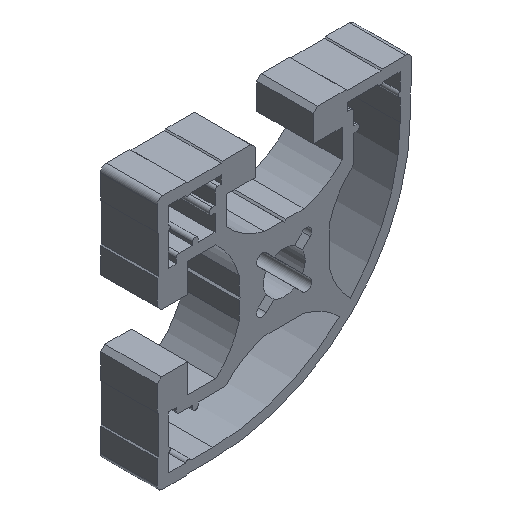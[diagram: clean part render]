
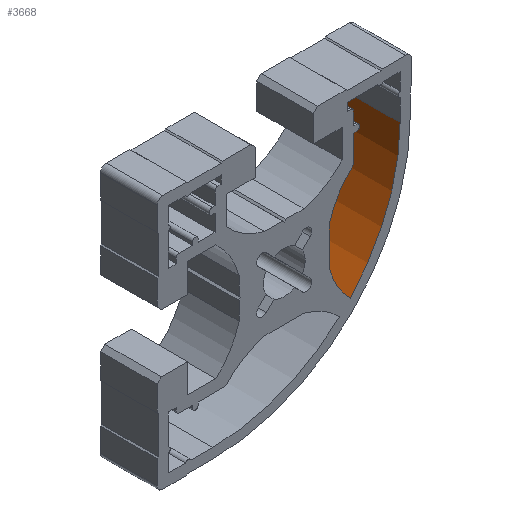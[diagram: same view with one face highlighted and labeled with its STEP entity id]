
A CAD part, isometric view. The second image highlights one B-rep face of the part: STEP entity #3668.
In plain terms, the highlighted cylindrical face has radius 33.2 mm (diameter 66.4 mm), a partial arc.
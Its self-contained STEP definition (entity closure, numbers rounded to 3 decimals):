
#266=CARTESIAN_POINT('',(-12.7,0.,12.7));
#267=DIRECTION('',(0.,1.,0.));
#268=DIRECTION('',(1.,0.,0.));
#269=AXIS2_PLACEMENT_3D('',#266,#267,#268);
#863=CARTESIAN_POINT('',(-12.7,10.,12.7));
#864=DIRECTION('',(0.,1.,0.));
#865=DIRECTION('',(1.,0.,0.));
#866=AXIS2_PLACEMENT_3D('',#863,#864,#865);
#1347=DIRECTION('',(0.,1.,0.));
#1348=VECTOR('',#1347,10.);
#1349=CARTESIAN_POINT('',(20.5,0.,12.7));
#1350=LINE('',#1349,#1348);
#1351=DIRECTION('',(0.,1.,0.));
#1352=VECTOR('',#1351,10.);
#1353=CARTESIAN_POINT('',(11.697,0.,-9.817));
#1354=LINE('',#1353,#1352);
#1849=CARTESIAN_POINT('',(20.5,0.,12.7));
#1850=CARTESIAN_POINT('',(11.697,0.,-9.817));
#1851=VERTEX_POINT('',#1849);
#1852=VERTEX_POINT('',#1850);
#1863=CARTESIAN_POINT('',(20.5,10.,12.7));
#1864=CARTESIAN_POINT('',(11.697,10.,-9.817));
#1865=VERTEX_POINT('',#1863);
#1866=VERTEX_POINT('',#1864);
#3656=CARTESIAN_POINT('',(-12.7,0.,12.7));
#3657=DIRECTION('',(0.,1.,0.));
#3658=DIRECTION('',(1.,0.,0.));
#3659=AXIS2_PLACEMENT_3D('',#3656,#3657,#3658);
#3660=CYLINDRICAL_SURFACE('',#3659,33.2);
#3661=ORIENTED_EDGE('',*,*,#2442,.T.);
#3663=ORIENTED_EDGE('',*,*,#3662,.T.);
#3664=ORIENTED_EDGE('',*,*,#2942,.F.);
#3665=ORIENTED_EDGE('',*,*,#3625,.F.);
#3666=EDGE_LOOP('',(#3661,#3663,#3664,#3665));
#3667=FACE_OUTER_BOUND('',#3666,.F.);
#3668=ADVANCED_FACE('',(#3667),#3660,.F.);
#270=CIRCLE('',#269,33.2);
#867=CIRCLE('',#866,33.2);
#2442=EDGE_CURVE('',#1851,#1852,#270,.T.);
#2942=EDGE_CURVE('',#1865,#1866,#867,.T.);
#3625=EDGE_CURVE('',#1851,#1865,#1350,.T.);
#3662=EDGE_CURVE('',#1852,#1866,#1354,.T.);
